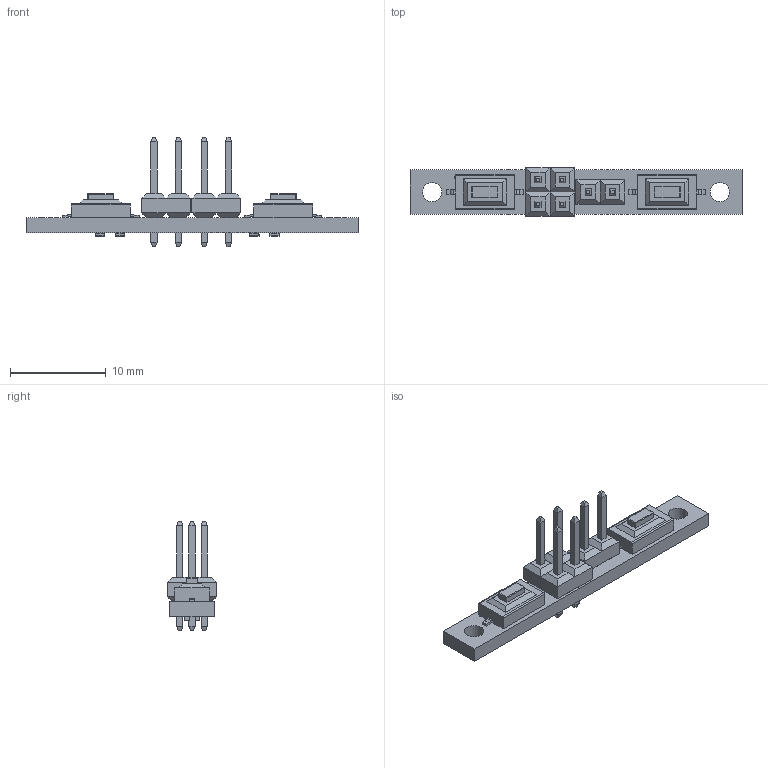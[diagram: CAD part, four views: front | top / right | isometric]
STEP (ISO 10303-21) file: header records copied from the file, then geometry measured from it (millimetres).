
FILE_DESCRIPTION(/* description */ (''),/* implementation_level */ '2;1');
FILE_NAME(/* name */ 'C:/Users/priba/Documents/Temp/Export/mrm-switch.step',/* time_stamp */ '2019-09-09T13:04:50+02:00',/* author */ (''),/* organization */ (''),/* preprocessor_version */ 'ST-DEVELOPER v18',/* originating_system */ 'Autodesk Translation Framework v8.6.0.1094',/* authorisation */ '');
FILE_SCHEMA (('AUTOMOTIVE_DESIGN { 1 0 10303 214 3 1 1 }'));
Length unit declared in the file: millimetre
Products named in the file (7): mrm-switch; PCB Component; Board; SWITCH-SPST-SMD-6.0X3.5MM; 30 kOhm; 1X02; FIDUCIAL1X2
Assembly tree (17 placements, depth 3):
  mrm-switch
    PCB Component
      Board
      SWITCH-SPST-SMD-6.0X3.5MM  x2
      30 kOhm  x4
      1X02  x3
      FIDUCIAL1X2  x6
Bounding box: 34.6 x 5.08 x 11.38 mm (x, y, z)
Volume: 417.4 mm3; surface area: 944 mm2
Topology: 10 solids, 10 shells, 680 faces, 1936 edges, 1300 vertices
Faces by surface type: plane 434, cylinder 166, sphere 72, bspline 8
Full cylindrical faces by diameter (mm): 0.3 x2, 1.016 x6, 2 x2
Entity records: 7705 total; most frequent: CARTESIAN_POINT 1790, ORIENTED_EDGE 1182, DIRECTION 1018, EDGE_CURVE 591, VERTEX_POINT 401, LINE 344, VECTOR 344, AXIS2_PLACEMENT_3D 337
